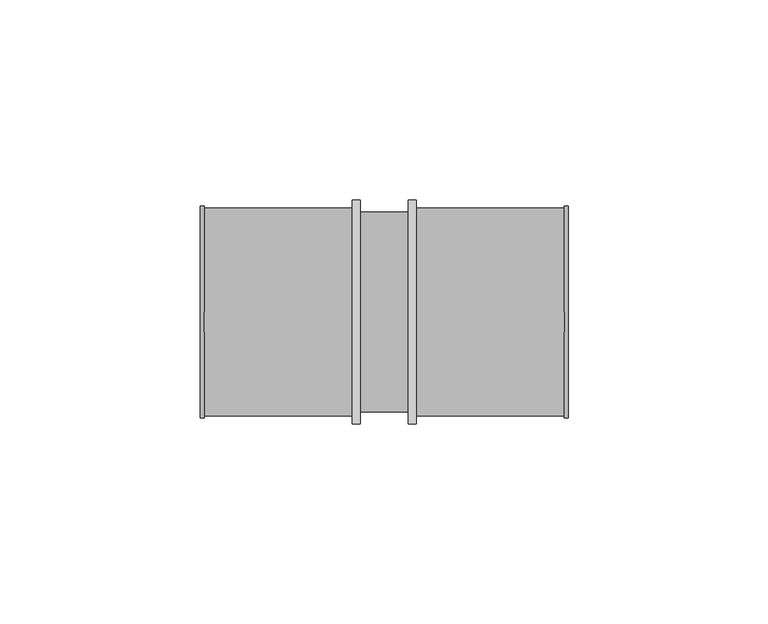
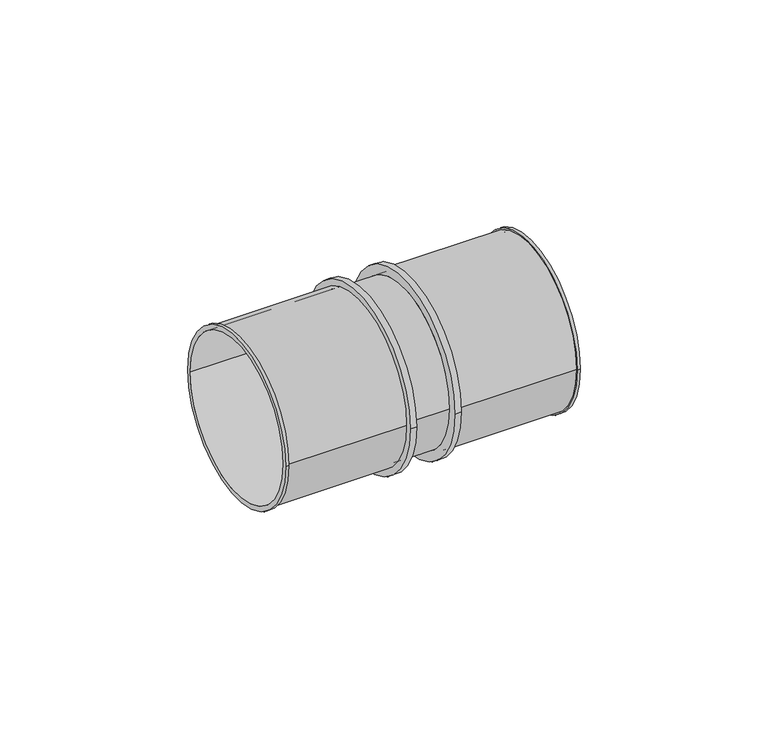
"""IFC4 building model written with IfcOpenShell, lengths in millimetres: pipe fitting geometry, SuperPipe_Coupling_SPressPlus : SuperPipe_Coupling_SPressPlus."""

import ifcopenshell
import ifcopenshell.guid

model = None  # the IFC model being written
_history = None  # IfcOwnerHistory: only IFC2X3 demands one
_inside = {}  # id of a spatial element -> (the spatial element, [elements in it])
_under = {}  # id of a project, library or spatial element -> (it, [spatial elements below it])
_declared = {}  # id of a project -> (the project, [libraries it declares])
_typed = {}  # id of a type object -> (the type object, [elements of that type])
_made_of = {}  # id of a material, layer set ... -> (it, [elements and type objects made of it])


def new_model(schema):
    """Start an empty IFC model of exactly this schema.

    Asked for "IFC4X3", IfcOpenShell would pick the latest addendum, in which some entities
    have other attributes; the version numbers below select the first issue.
    IFC2X3 requires an IfcOwnerHistory on every rooted entity: one is made here for all.
    """
    global model, _history
    if schema == "IFC4X3":
        model = ifcopenshell.file(schema_version=(4, 3, 0, 0))
    else:
        model = ifcopenshell.file(schema=schema)
    _inside.clear()
    _under.clear()
    _declared.clear()
    _typed.clear()
    _made_of.clear()
    _history = None
    if model.schema == "IFC2X3":
        org = make("IfcOrganization", Name="unknown")
        user = make(
            "IfcPersonAndOrganization",
            ThePerson=make("IfcPerson", FamilyName="unknown"),
            TheOrganization=org,
        )
        app = make(
            "IfcApplication",
            ApplicationDeveloper=org,
            Version="unknown",
            ApplicationFullName="unknown",
            ApplicationIdentifier="unknown",
        )
        _history = make(
            "IfcOwnerHistory",
            OwningUser=user,
            OwningApplication=app,
            ChangeAction="ADDED",
            CreationDate=0,
        )
    return model


def make(cls, **values):
    """One entity of the class cls with the attributes given. An attribute that is None is left unset."""
    return model.create_entity(
        cls, **{name: value for name, value in values.items() if value is not None}
    )


def rooted(cls, **values):
    """An entity with a GlobalId (a new one), such as an element, a storey or a relation."""
    return make(cls, GlobalId=ifcopenshell.guid.new(), OwnerHistory=_history, **values)


def si_unit(unit_type, name, prefix=None):
    """IfcSIUnit, for example si_unit("LENGTHUNIT", "METRE", prefix="MILLI")."""
    return make("IfcSIUnit", UnitType=unit_type, Prefix=prefix, Name=name)


def assignment(units):
    """IfcUnitAssignment: the units of a project."""
    return None if units is None else make("IfcUnitAssignment", Units=units)


def point(xyz):
    """IfcCartesianPoint."""
    return None if xyz is None else make("IfcCartesianPoint", Coordinates=xyz)


def direction(xyz):
    """IfcDirection."""
    return None if xyz is None else make("IfcDirection", DirectionRatios=xyz)


def frame(location, z_axis=None, x_axis=None):
    """IfcAxis2Placement3D, a coordinate frame: its origin and axes. An axis left out is left unset."""
    return make(
        "IfcAxis2Placement3D",
        Location=point(location),
        Axis=direction(z_axis),
        RefDirection=direction(x_axis),
    )


def frame_2d(location, x_axis=None):
    """IfcAxis2Placement2D, a coordinate frame in the plane: its origin and x axis."""
    return make(
        "IfcAxis2Placement2D", Location=point(location), RefDirection=direction(x_axis)
    )


def origin():
    """The frame at (0, 0, 0) with its axes left unset."""
    return frame((0.0, 0.0, 0.0))


def origin_2d():
    """The frame at (0, 0) in the plane with its x axis left unset."""
    return frame_2d((0.0, 0.0))


def place(relative_to, where):
    """IfcLocalPlacement: puts the frame where relative to a parent placement (None: the world)."""
    return make(
        "IfcLocalPlacement", PlacementRelTo=relative_to, RelativePlacement=where
    )


def context(
    kind, dimensions, precision=None, world=None, true_north=None, identifier=None
):
    """IfcGeometricRepresentationContext, for example the 3D "Model" context."""
    return make(
        "IfcGeometricRepresentationContext",
        ContextIdentifier=identifier,
        ContextType=kind,
        CoordinateSpaceDimension=dimensions,
        Precision=precision,
        WorldCoordinateSystem=world,
        TrueNorth=true_north,
    )


def project(units=None, contexts=None):
    """IfcProject with its units and contexts."""
    return rooted(
        "IfcProject",
        Name="project",
        RepresentationContexts=contexts,
        UnitsInContext=assignment(units),
    )


def spatial(cls, under=None, at=None, **own):
    """A site, building, storey or space (cls), placed at a placement, below another one or the project."""
    s = rooted(cls, ObjectPlacement=at, **own)
    if under is not None:
        _under.setdefault(under.id(), (under, []))[1].append(s)
    return s


def polyline(points):
    """IfcPolyline through the points."""
    return make("IfcPolyline", Points=[point(p) for p in points])


def circle_curve(where, radius):
    """IfcCircle in the frame where."""
    return make("IfcCircle", Position=where, Radius=radius)


def trimmed(basis, trim1, trim2, sense, master):
    """IfcTrimmedCurve: the piece of a basis curve between two trims."""
    return make(
        "IfcTrimmedCurve",
        BasisCurve=basis,
        Trim1=trim1,
        Trim2=trim2,
        SenseAgreement=sense,
        MasterRepresentation=master,
    )


def segment(curve, same_sense, transition):
    """IfcCompositeCurveSegment."""
    return make(
        "IfcCompositeCurveSegment",
        Transition=transition,
        SameSense=same_sense,
        ParentCurve=curve,
    )


def composite_curve(segments, self_intersect=None):
    """IfcCompositeCurve: segments joined end to end."""
    return make("IfcCompositeCurve", Segments=segments, SelfIntersect=self_intersect)


def outline(outer, holes=None, kind="AREA"):
    """IfcArbitraryClosedProfileDef: a profile drawn as a closed curve; with holes, ...WithVoids."""
    if holes is None:
        return make("IfcArbitraryClosedProfileDef", ProfileType=kind, OuterCurve=outer)
    return make(
        "IfcArbitraryProfileDefWithVoids",
        ProfileType=kind,
        OuterCurve=outer,
        InnerCurves=holes,
    )


def extrude(swept, where, along, depth):
    """IfcExtrudedAreaSolid: the profile swept, set in the frame where, extruded along a direction by depth."""
    return make(
        "IfcExtrudedAreaSolid",
        SweptArea=swept,
        Position=where,
        ExtrudedDirection=direction(along),
        Depth=depth,
    )


def shape(context_of_items, identifier, shape_type, items):
    """IfcShapeRepresentation: the items that make up one representation, for example the "Body"."""
    return make(
        "IfcShapeRepresentation",
        ContextOfItems=context_of_items,
        RepresentationIdentifier=identifier,
        RepresentationType=shape_type,
        Items=items,
    )


def source(mapping_origin, context_of_items, identifier, shape_type, items):
    """IfcRepresentationMap: a shape defined once, which mapped items show again and again."""
    return make(
        "IfcRepresentationMap",
        MappingOrigin=mapping_origin,
        MappedRepresentation=shape(context_of_items, identifier, shape_type, items),
    )


def transform(
    local_origin,
    x_axis=None,
    y_axis=None,
    z_axis=None,
    scale=None,
    scale2=None,
    scale3=None,
    uniform=True,
):
    """IfcCartesianTransformationOperator3D, or its non-uniform kind. x_axis, y_axis, z_axis: its Axis1, 2, 3."""
    if uniform:
        return make(
            "IfcCartesianTransformationOperator3D",
            Axis1=direction(x_axis),
            Axis2=direction(y_axis),
            LocalOrigin=point(local_origin),
            Scale=scale,
            Axis3=direction(z_axis),
        )
    return make(
        "IfcCartesianTransformationOperator3DnonUniform",
        Axis1=direction(x_axis),
        Axis2=direction(y_axis),
        LocalOrigin=point(local_origin),
        Scale=scale,
        Axis3=direction(z_axis),
        Scale2=scale2,
        Scale3=scale3,
    )


def mapped(mapping_source, mapping_target):
    """IfcMappedItem: shows the shape of a source again, moved by a transform."""
    return make(
        "IfcMappedItem", MappingSource=mapping_source, MappingTarget=mapping_target
    )


def made_of(thing, what):
    """Note that an element or type object is made of a material, layer set ...; save() writes the relation."""
    if what is not None:
        _made_of.setdefault(what.id(), (what, []))[1].append(thing)
    return thing


def element(
    cls,
    number,
    at=None,
    inside=None,
    cuts=None,
    type_object=None,
    material=None,
    context=None,
    identifier="Body",
    shape_type=None,
    held_by="IfcProductDefinitionShape",
    body=None,
    shapes=None,
    **own,
):
    """One element of the class cls, such as IfcWall. Its Tag is "e" and its number.

    at: its placement. inside: the storey or other place that contains it. cuts: it is an
    opening in that element (IfcRelVoidsElement). A single representation is given by context,
    identifier, shape_type and body (its items); several are given by shapes. held_by: the class
    of the entity that holds the representations. save() writes the other relations.
    """
    e = rooted(cls, Tag="e%d" % number, ObjectPlacement=at, **own)
    if body is not None:
        shapes = [shape(context, identifier, shape_type, body)]
    if shapes is not None:
        e.Representation = make(held_by, Representations=shapes)
    if inside is not None:
        _inside.setdefault(inside.id(), (inside, []))[1].append(e)
    if cuts is not None:
        rooted(
            "IfcRelVoidsElement", RelatingBuildingElement=cuts, RelatedOpeningElement=e
        )
    if type_object is not None:
        _typed.setdefault(type_object.id(), (type_object, []))[1].append(e)
    return made_of(e, material)


def aggregate(whole, parts):
    """IfcRelAggregates: a whole, such as a stair, and the parts it consists of."""
    return rooted("IfcRelAggregates", RelatingObject=whole, RelatedObjects=parts)


def save(model, path):
    """Write the relations noted so far, then the file.

    IfcRelAggregates (storeys below a building ...), IfcRelContainedInSpatialStructure (elements
    in a storey), IfcRelDefinesByType, IfcRelAssociatesMaterial and IfcRelDeclares: one each for
    every whole, place, type object, material and project.
    """
    for whole, parts in _under.values():
        aggregate(whole, parts)
    for where, things in _inside.values():
        rooted(
            "IfcRelContainedInSpatialStructure",
            RelatedElements=things,
            RelatingStructure=where,
        )
    for kind, things in _typed.values():
        rooted("IfcRelDefinesByType", RelatedObjects=things, RelatingType=kind)
    for what, things in _made_of.values():
        rooted("IfcRelAssociatesMaterial", RelatedObjects=things, RelatingMaterial=what)
    for by, libraries in _declared.values():
        rooted("IfcRelDeclares", RelatingContext=by, RelatedDefinitions=libraries)
    model.write(path)


def plane_surface(at):
    """IfcPlane: the flat surface through the origin of the frame at, square to its z axis."""
    return make("IfcPlane", Position=at)


def cylinder_surface(at, radius):
    """IfcCylindricalSurface: all points at the distance radius from the z axis of the frame at."""
    return make("IfcCylindricalSurface", Position=at, Radius=radius)


def revolved_surface(curve, axis_point, axis_direction):
    """IfcSurfaceOfRevolution: the curve turned about the line through axis_point along axis_direction."""
    return make(
        "IfcSurfaceOfRevolution",
        SweptCurve=make("IfcArbitraryOpenProfileDef", ProfileType="CURVE", Curve=curve),
        AxisPosition=make("IfcAxis1Placement", Location=point(axis_point), Axis=direction(axis_direction)),
    )


def advanced_brep(points, edges, surfaces, faces):
    """IfcAdvancedBrep: a solid bounded by faces that lie on surfaces and meet in shared edges.

    An edge is (start, end): straight between two places in points (the first is 0);
    or (start, end, curve); or (start, end, curve, False) where it runs against its curve.
    A face is (place in surfaces, loops), or (place, loops, False) where it looks against
    its surface's normal. A loop lists edges by number (the first is 1), with a minus sign
    where the edge is run from its end to its start. The first loop is the outer one.
    """
    corners = [point(p) for p in points]
    vertices = [make("IfcVertexPoint", VertexGeometry=c) for c in corners]
    made = []
    for start, end, *more in edges:
        made.append(
            make(
                "IfcEdgeCurve",
                EdgeStart=vertices[start],
                EdgeEnd=vertices[end],
                EdgeGeometry=more[0] if more else make("IfcPolyline", Points=[corners[start], corners[end]]),
                SameSense=more[1] if len(more) > 1 else True,
            )
        )
    hull = []
    for where, loops, *sense in faces:
        bounds = []
        for j, loop in enumerate(loops):
            ring = [make("IfcOrientedEdge", EdgeElement=made[abs(k) - 1], Orientation=k > 0) for k in loop]
            bounds.append(
                make(
                    "IfcFaceOuterBound" if j == 0 else "IfcFaceBound",
                    Bound=make("IfcEdgeLoop", EdgeList=ring),
                    Orientation=True,
                )
            )
        hull.append(make("IfcAdvancedFace", Bounds=bounds, FaceSurface=surfaces[where], SameSense=sense[0] if sense else True))
    return make("IfcAdvancedBrep", Outer=make("IfcClosedShell", CfsFaces=hull))


def pipe_fitting_38146fe8(model_context):
    return source(origin(), model_context, "Body", "SolidModel", [
        advanced_brep(
        [(-52.0, -26.5, 0.0), (-52.0, 26.5, 0.0), (-52.0, -25.0, 0.0), (-52.0, 25.0, 0.0), (-14.0, -26.0, 0.0), (-14.0, 26.0, 0.0), (-14.0, -25.0, 0.0), (-14.0, 25.0, 0.0), (-51.0, -25.0, 0.0), (-51.0, 25.0, 0.0), (-51.0, 26.0, 0.0), (-51.0, -26.0, 0.0), (-51.0, -26.5, 0.0), (-51.0, 26.5, 0.0)],
        [
            (0, 1, circle_curve(frame((-52.0, 0.0, 0.0), z_axis=(-1.0, 0.0, 0.0), x_axis=(0.0, 1.0, 0.0)), 26.5)),
            (1, 0, circle_curve(frame((-52.0, 0.0, 0.0), z_axis=(-1.0, 0.0, 0.0), x_axis=(0.0, 1.0, 0.0)), 26.5)),
            (2, 3, circle_curve(frame((-52.0, 0.0, 0.0), z_axis=(1.0, 0.0, 0.0), x_axis=(0.0, 1.0, 0.0)), 25.0)),
            (3, 2, circle_curve(frame((-52.0, 0.0, 0.0), z_axis=(1.0, 0.0, 0.0), x_axis=(0.0, 1.0, 0.0)), 25.0)),
            (4, 5, circle_curve(frame((-14.0, 0.0, 0.0), z_axis=(1.0, 0.0, 0.0), x_axis=(0.0, 1.0, 0.0)), 26.0)),
            (5, 4, circle_curve(frame((-14.0, 0.0, 0.0), z_axis=(1.0, 0.0, 0.0), x_axis=(0.0, 1.0, 0.0)), 26.0)),
            (6, 7, circle_curve(frame((-14.0, 0.0, 0.0), z_axis=(-1.0, 0.0, 0.0), x_axis=(0.0, 1.0, 0.0)), 25.0)),
            (7, 6, circle_curve(frame((-14.0, 0.0, 0.0), z_axis=(-1.0, 0.0, 0.0), x_axis=(0.0, 1.0, 0.0)), 25.0)),
            (2, 8),
            (8, 6),
            (7, 9),
            (9, 3),
            (5, 10),
            (10, 11, circle_curve(frame((-51.0, 0.0, 0.0), z_axis=(1.0, 0.0, 0.0), x_axis=(0.0, 1.0, 0.0)), 26.0)),
            (11, 4),
            (11, 10, circle_curve(frame((-51.0, 0.0, 0.0), z_axis=(1.0, 0.0, 0.0), x_axis=(0.0, 1.0, 0.0)), 26.0)),
            (12, 13, circle_curve(frame((-51.0, 0.0, 0.0), z_axis=(1.0, 0.0, 0.0), x_axis=(0.0, 1.0, 0.0)), 26.5)),
            (13, 12, circle_curve(frame((-51.0, 0.0, 0.0), z_axis=(1.0, 0.0, 0.0), x_axis=(0.0, 1.0, 0.0)), 26.5)),
            (0, 12),
            (13, 1),
        ],
        [
            plane_surface(frame((-52.0, 0.0, 0.0), z_axis=(-1.0, 0.0, 0.0), x_axis=(0.0, 0.0, 1.0))),
            plane_surface(frame((-14.0, 0.0, 0.0), z_axis=(1.0, 0.0, 0.0), x_axis=(0.0, 0.0, 1.0))),
            revolved_surface(polyline([(-14.0, 25.0, 0.0), (-52.0, 25.0, 0.0)]), (-52.0, 0.0, 0.0), (1.0, 0.0, 0.0)),
            cylinder_surface(frame((-52.0, 0.0, 0.0), z_axis=(-1.0, 0.0, 0.0), x_axis=(0.0, 1.0, 0.0)), 26.0),
            plane_surface(frame((-51.0, 0.0, 0.0), z_axis=(1.0, 0.0, 0.0), x_axis=(0.0, 0.0, 1.0))),
            cylinder_surface(frame((-52.0, 0.0, 0.0), z_axis=(-1.0, 0.0, 0.0), x_axis=(0.0, 1.0, 0.0)), 26.5),
        ],
        [
            (0, [[1, 2], [3, 4]]),
            (1, [[5, 6], [7, 8]]),
            (2, [[-3, 9, 10, -8, 11, 12]]),
            (2, [[-4, -12, -11, -7, -10, -9]]),
            (3, [[-6, 13, 14, 15]]),
            (3, [[-5, -15, 16, -13]]),
            (4, [[17, 18], [-14, -16]]),
            (5, [[-1, 19, -18, 20]]),
            (5, [[-2, -20, -17, -19]]),
        ],
    ),
        advanced_brep(
        [(2.0, -26.0, 0.0), (2.0, 26.0, 0.0), (2.0, -25.0, 0.0), (2.0, 25.0, 0.0), (40.0, -26.5, 0.0), (40.0, 26.5, 0.0), (40.0, -25.0, 0.0), (40.0, 25.0, 0.0), (39.0, -26.0, 0.0), (39.0, 26.0, 0.0), (39.0, -25.0, 0.0), (39.0, 25.0, 0.0), (39.0, -26.5, 0.0), (39.0, 26.5, 0.0)],
        [
            (0, 1, circle_curve(frame((2.0, 0.0, 0.0), z_axis=(-1.0, 0.0, 0.0), x_axis=(0.0, 1.0, 0.0)), 26.0)),
            (1, 0, circle_curve(frame((2.0, 0.0, 0.0), z_axis=(-1.0, 0.0, 0.0), x_axis=(0.0, 1.0, 0.0)), 26.0)),
            (2, 3, circle_curve(frame((2.0, 0.0, 0.0), z_axis=(1.0, 0.0, 0.0), x_axis=(0.0, 1.0, 0.0)), 25.0)),
            (3, 2, circle_curve(frame((2.0, 0.0, 0.0), z_axis=(1.0, 0.0, 0.0), x_axis=(0.0, 1.0, 0.0)), 25.0)),
            (4, 5, circle_curve(frame((40.0, 0.0, 0.0), z_axis=(1.0, 0.0, 0.0), x_axis=(0.0, 1.0, 0.0)), 26.5)),
            (5, 4, circle_curve(frame((40.0, 0.0, 0.0), z_axis=(1.0, 0.0, 0.0), x_axis=(0.0, 1.0, 0.0)), 26.5)),
            (6, 7, circle_curve(frame((40.0, 0.0, 0.0), z_axis=(-1.0, 0.0, 0.0), x_axis=(0.0, 1.0, 0.0)), 25.0)),
            (7, 6, circle_curve(frame((40.0, 0.0, 0.0), z_axis=(-1.0, 0.0, 0.0), x_axis=(0.0, 1.0, 0.0)), 25.0)),
            (0, 8),
            (8, 9, circle_curve(frame((39.0, 0.0, 0.0), z_axis=(-1.0, 0.0, 0.0), x_axis=(0.0, 1.0, 0.0)), 26.0)),
            (9, 1),
            (9, 8, circle_curve(frame((39.0, 0.0, 0.0), z_axis=(-1.0, 0.0, 0.0), x_axis=(0.0, 1.0, 0.0)), 26.0)),
            (2, 10),
            (10, 6),
            (7, 11),
            (11, 3),
            (12, 13, circle_curve(frame((39.0, 0.0, 0.0), z_axis=(-1.0, 0.0, 0.0), x_axis=(0.0, 1.0, 0.0)), 26.5)),
            (13, 12, circle_curve(frame((39.0, 0.0, 0.0), z_axis=(-1.0, 0.0, 0.0), x_axis=(0.0, 1.0, 0.0)), 26.5)),
            (12, 4),
            (5, 13),
        ],
        [
            plane_surface(frame((2.0, 0.0, 0.0), z_axis=(-1.0, 0.0, 0.0), x_axis=(0.0, 0.0, 1.0))),
            plane_surface(frame((40.0, 0.0, 0.0), z_axis=(1.0, 0.0, 0.0), x_axis=(0.0, 0.0, 1.0))),
            cylinder_surface(frame((2.0, 0.0, 0.0), z_axis=(-1.0, 0.0, 0.0), x_axis=(0.0, 1.0, 0.0)), 26.0),
            revolved_surface(polyline([(40.0, 25.0, 0.0), (2.0, 25.0, 0.0)]), (2.0, 0.0, 0.0), (1.0, 0.0, 0.0)),
            plane_surface(frame((39.0, 0.0, 0.0), z_axis=(-1.0, 0.0, 0.0), x_axis=(0.0, 0.0, 1.0))),
            cylinder_surface(frame((39.0, 0.0, 0.0), z_axis=(-1.0, 0.0, 0.0), x_axis=(0.0, 1.0, 0.0)), 26.5),
        ],
        [
            (0, [[1, 2], [3, 4]]),
            (1, [[5, 6], [7, 8]]),
            (2, [[-1, 9, 10, 11]]),
            (2, [[-2, -11, 12, -9]]),
            (3, [[-3, 13, 14, -8, 15, 16]]),
            (3, [[-4, -16, -15, -7, -14, -13]]),
            (4, [[17, 18], [-10, -12]]),
            (5, [[-17, 19, -6, 20]]),
            (5, [[-18, -20, -5, -19]]),
        ],
    ),
        extrude(outline(composite_curve([segment(trimmed(circle_curve(origin_2d(), 28.0), [point((-28.0, 0.0))], [point((28.0, 0.0))], False, "CARTESIAN"), True, "CONTINUOUS"), segment(trimmed(circle_curve(origin_2d(), 28.0), [point((28.0, 0.0))], [point((-28.0, 0.0))], False, "CARTESIAN"), True, "CONTINUOUS")], self_intersect=False), holes=[composite_curve([segment(trimmed(circle_curve(origin_2d(), 25.0), [point((-25.0, 0.0))], [point((25.0, 0.0))], True, "CARTESIAN"), True, "CONTINUOUS"), segment(trimmed(circle_curve(origin_2d(), 25.0), [point((25.0, 0.0))], [point((-25.0, 0.0))], True, "CARTESIAN"), True, "CONTINUOUS")], self_intersect=False)]), frame((0.0, 0.0, 0.0), z_axis=(1.0, 0.0, 0.0), x_axis=(0.0, 1.0, 0.0)), (0.0, 0.0, 1.0), 2.0),
        extrude(outline(composite_curve([segment(trimmed(circle_curve(origin_2d(), 28.0), [point((-28.0, 0.0))], [point((28.0, 0.0))], False, "CARTESIAN"), True, "CONTINUOUS"), segment(trimmed(circle_curve(origin_2d(), 28.0), [point((28.0, 0.0))], [point((-28.0, 0.0))], False, "CARTESIAN"), True, "CONTINUOUS")], self_intersect=False), holes=[composite_curve([segment(trimmed(circle_curve(origin_2d(), 25.0), [point((-25.0, 0.0))], [point((25.0, 0.0))], True, "CARTESIAN"), True, "CONTINUOUS"), segment(trimmed(circle_curve(origin_2d(), 25.0), [point((25.0, 0.0))], [point((-25.0, 0.0))], True, "CARTESIAN"), True, "CONTINUOUS")], self_intersect=False)]), frame((-14.0, 0.0, 0.0), z_axis=(1.0, 0.0, 0.0), x_axis=(0.0, 1.0, 0.0)), (0.0, 0.0, 1.0), 2.0),
        extrude(outline(composite_curve([segment(trimmed(circle_curve(origin_2d(), 25.0), [point((-25.0, 0.0))], [point((25.0, 0.0))], False, "CARTESIAN"), True, "CONTINUOUS"), segment(trimmed(circle_curve(origin_2d(), 25.0), [point((25.0, 0.0))], [point((-25.0, 0.0))], False, "CARTESIAN"), True, "CONTINUOUS")], self_intersect=False)), frame((-12.0, 0.0, 0.0), z_axis=(1.0, 0.0, 0.0), x_axis=(0.0, 1.0, 0.0)), (0.0, 0.0, 1.0), 12.0),
    ])


if __name__ == "__main__":
    model = new_model("IFC4")
    model_context = context("Model", 3, world=origin())
    ifc_project = project(units=[si_unit("LENGTHUNIT", "METRE", prefix="MILLI")], contexts=[model_context])
    site = spatial("IfcSite", under=ifc_project)
    building = spatial("IfcBuilding", under=site)
    placement = place(None, origin())
    pipe_fitting_shape = pipe_fitting_38146fe8(model_context)
    element("IfcPipeFitting", 1, ObjectType="SuperPipe_Coupling_SPressPlus : SuperPipe_Coupling_SPressPlus", at=placement, inside=building, context=model_context, shape_type="MappedRepresentation", body=[
        mapped(pipe_fitting_shape, transform((0.0, 0.0, 0.0), x_axis=(1.0, 0.0, 0.0), y_axis=(0.0, 1.0, 0.0), z_axis=(0.0, 0.0, 1.0))),
    ])
    save(model, "model.ifc")
